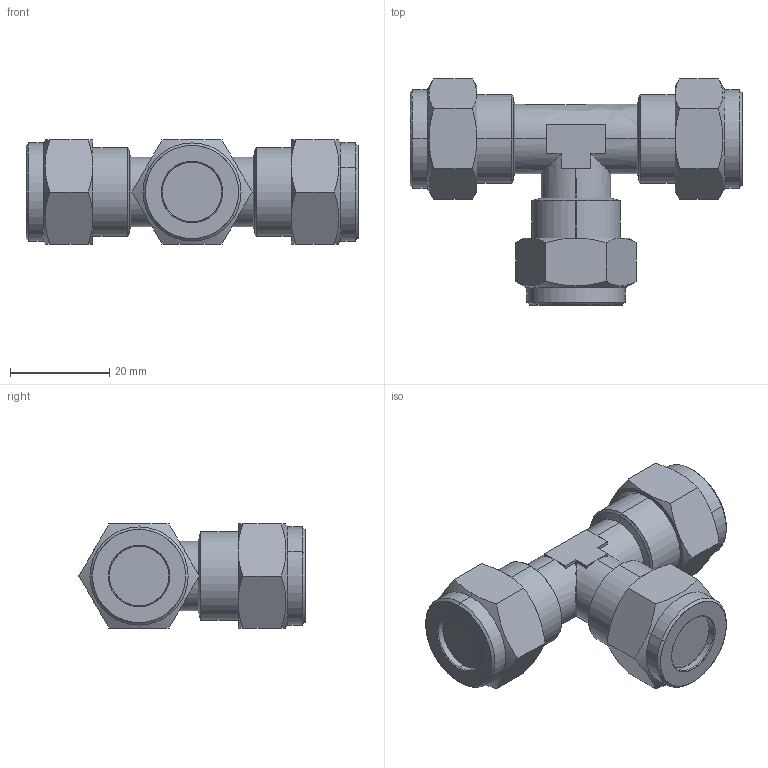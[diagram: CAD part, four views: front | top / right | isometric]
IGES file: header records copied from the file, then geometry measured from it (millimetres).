
Start section: SolidWorks IGES file using analytic representation for surfaces
Global section: file name: K:\Disegni Esecutivi\Serie 10000\Complessivi_10000\10200\10200_iges\1020000005A.IGS; native system: SolidWorks 2008; preprocessor: SolidWorks 2008; author: cad05; date: 081217.181838; units: millimetre
Bounding box: 67 x 45.62 x 21 mm (x, y, z)
Surface area: 7303.9 mm2 (no closed solid volume)
Topology: 0 solids, 0 shells, 128 faces, 1574 edges, 1574 vertices
Faces by surface type: revolution 73, bspline 55
